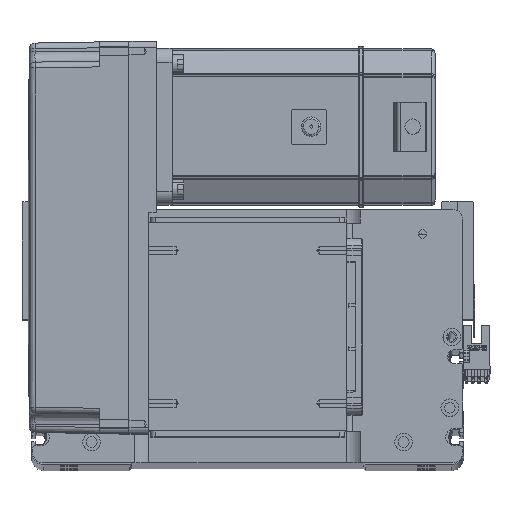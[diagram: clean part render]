
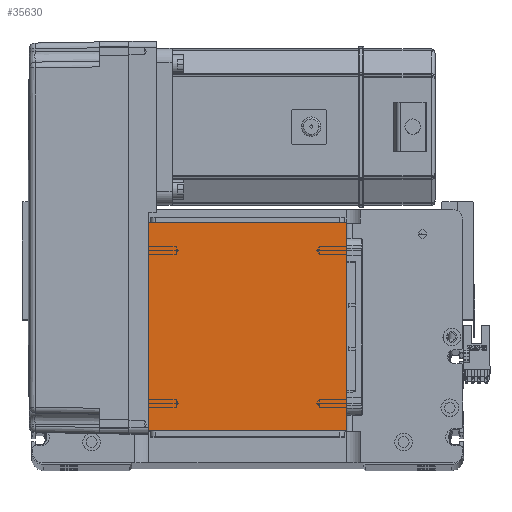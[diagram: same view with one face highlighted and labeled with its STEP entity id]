
A CAD part, top view. The second image highlights one B-rep face of the part: STEP entity #35630.
In plain terms, the highlighted planar face has unit normal (0, 0, 1).
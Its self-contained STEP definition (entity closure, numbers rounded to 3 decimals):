
#303 = EDGE_CURVE ( 'NONE', #38812, #4717, #12975, .T. ) ;
#1165 = EDGE_CURVE ( 'NONE', #15961, #38812, #53438, .T. ) ;
#4102 = FACE_OUTER_BOUND ( 'NONE', #30944, .T. ) ;
#4222 = CARTESIAN_POINT ( 'NONE',  ( -50.5, 122., 115. ) ) ;
#4290 = CARTESIAN_POINT ( 'NONE',  ( -50.5, 122., 115. ) ) ;
#4316 = PLANE ( 'NONE',  #6782 ) ;
#4717 = VERTEX_POINT ( 'NONE', #24962 ) ;
#5302 = EDGE_CURVE ( 'NONE', #53389, #15961, #36718, .T. ) ;
#6782 = AXIS2_PLACEMENT_3D ( 'NONE', #49977, #12153, #33196 ) ;
#7300 = DIRECTION ( 'NONE',  ( 0., 1., 0. ) ) ;
#8359 = ORIENTED_EDGE ( 'NONE', *, *, #14506, .T. ) ;
#10206 = VECTOR ( 'NONE', #46202, 1000. ) ;
#12153 = DIRECTION ( 'NONE',  ( 0., 0., 1. ) ) ;
#12975 = LINE ( 'NONE', #19347, #23471 ) ;
#14506 = EDGE_CURVE ( 'NONE', #4717, #53389, #31768, .T. ) ;
#15961 = VERTEX_POINT ( 'NONE', #32940 ) ;
#16477 = CARTESIAN_POINT ( 'NONE',  ( 50.5, 16., 115. ) ) ;
#18819 = DIRECTION ( 'NONE',  ( 0., -1., 0. ) ) ;
#19347 = CARTESIAN_POINT ( 'NONE',  ( 50.5, 122., 115. ) ) ;
#20119 = VECTOR ( 'NONE', #27607, 1000. ) ;
#23471 = VECTOR ( 'NONE', #7300, 1000. ) ;
#23504 = ORIENTED_EDGE ( 'NONE', *, *, #5302, .T. ) ;
#24962 = CARTESIAN_POINT ( 'NONE',  ( 50.5, 122., 115. ) ) ;
#25551 = VECTOR ( 'NONE', #18819, 1000. ) ;
#27607 = DIRECTION ( 'NONE',  ( 1., 0., 0. ) ) ;
#29670 = CARTESIAN_POINT ( 'NONE',  ( -50.5, 16., 115. ) ) ;
#30944 = EDGE_LOOP ( 'NONE', ( #23504, #43093, #39082, #8359 ) ) ;
#31768 = LINE ( 'NONE', #4222, #10206 ) ;
#32940 = CARTESIAN_POINT ( 'NONE',  ( -50.5, 16., 115. ) ) ;
#33196 = DIRECTION ( 'NONE',  ( 1., 0., 0. ) ) ;
#34742 = CARTESIAN_POINT ( 'NONE',  ( -50.5, 122., 115. ) ) ;
#35630 = ADVANCED_FACE ( 'NONE', ( #4102 ), #4316, .T. ) ;
#36718 = LINE ( 'NONE', #34742, #25551 ) ;
#38812 = VERTEX_POINT ( 'NONE', #16477 ) ;
#39082 = ORIENTED_EDGE ( 'NONE', *, *, #303, .T. ) ;
#43093 = ORIENTED_EDGE ( 'NONE', *, *, #1165, .T. ) ;
#46202 = DIRECTION ( 'NONE',  ( -1., 0., 0. ) ) ;
#49977 = CARTESIAN_POINT ( 'NONE',  ( 0., 0., 115. ) ) ;
#53389 = VERTEX_POINT ( 'NONE', #4290 ) ;
#53438 = LINE ( 'NONE', #29670, #20119 ) ;
